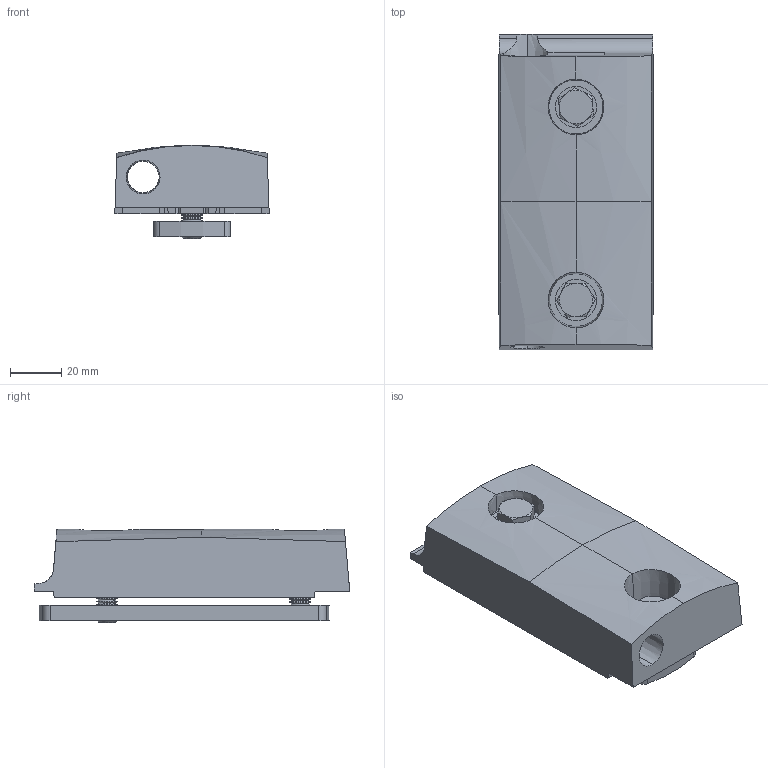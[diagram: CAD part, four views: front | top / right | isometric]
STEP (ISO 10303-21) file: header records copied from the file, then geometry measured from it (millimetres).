
FILE_DESCRIPTION (( 'STEP AP214' ), '1' );
FILE_NAME ('067RCB1BRU001.STEP', '2024-09-23T10:45:51', ( '' ), ( '' ), 'SwSTEP 2.0', 'SolidWorks 2023', '' );
FILE_SCHEMA (( 'AUTOMOTIVE_DESIGN' ));
Length unit declared in the file: millimetre
Products named in the file (8): 067RCB1BRU001; 067RCB1BRU001(2); 4DIN933M08025M_0; 067RCB1BRS001_1; 4DIN125AM8M; 4DIN933M08030M_0; 067RCB1BRS005_1; 067RCB1BRS007_1
Assembly tree (8 placements, depth 3):
  067RCB1BRU001
    067RCB1BRU001(2)
      067RCB1BRS001_1
      067RCB1BRS005_1
      067RCB1BRS007_1
      4DIN125AM8M  x2
      4DIN933M08030M_0
      4DIN933M08025M_0
Bounding box: 60 x 122.6 x 36.15 mm (x, y, z)
Volume: 89270.8 mm3; surface area: 60274.3 mm2
Topology: 7 solids, 7 shells, 492 faces, 1296 edges, 827 vertices
Faces by surface type: cone 199, plane 144, cylinder 133, bspline 16
Entity records: 17103 total; most frequent: CARTESIAN_POINT 4744, DIRECTION 2606, ORIENTED_EDGE 2568, EDGE_CURVE 1284, AXIS2_PLACEMENT_3D 1008, VERTEX_POINT 819, LINE 590, VECTOR 590
